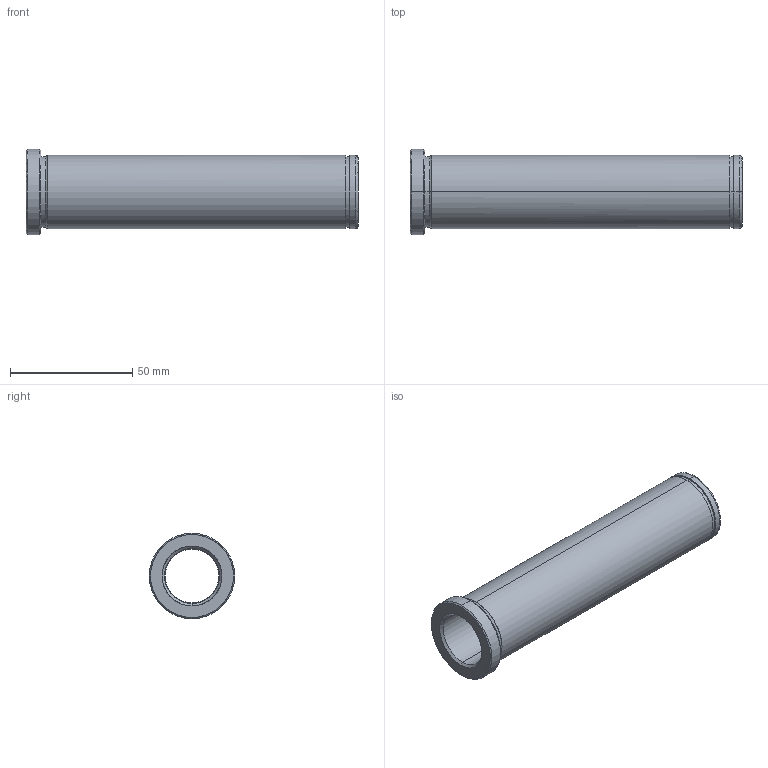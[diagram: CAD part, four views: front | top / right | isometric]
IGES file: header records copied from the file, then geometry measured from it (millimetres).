
Start section: START RECORD GO HERE.
Global section: file name: 553-22X136.igs; native system: DASSAULT SYSTEMES CATIA V5 R20 - www.3ds.com; preprocessor: CATIA Version 5 Release 20 ; author: Utente; organization: NB04-ASUS; date: 20210525.201532; units: millimetre
Bounding box: 136 x 35 x 35 mm (x, y, z)
Surface area: 23519 mm2 (no closed solid volume)
Topology: 0 solids, 0 shells, 32 faces, 204 edges, 204 vertices
Faces by surface type: revolution 26, plane 6
